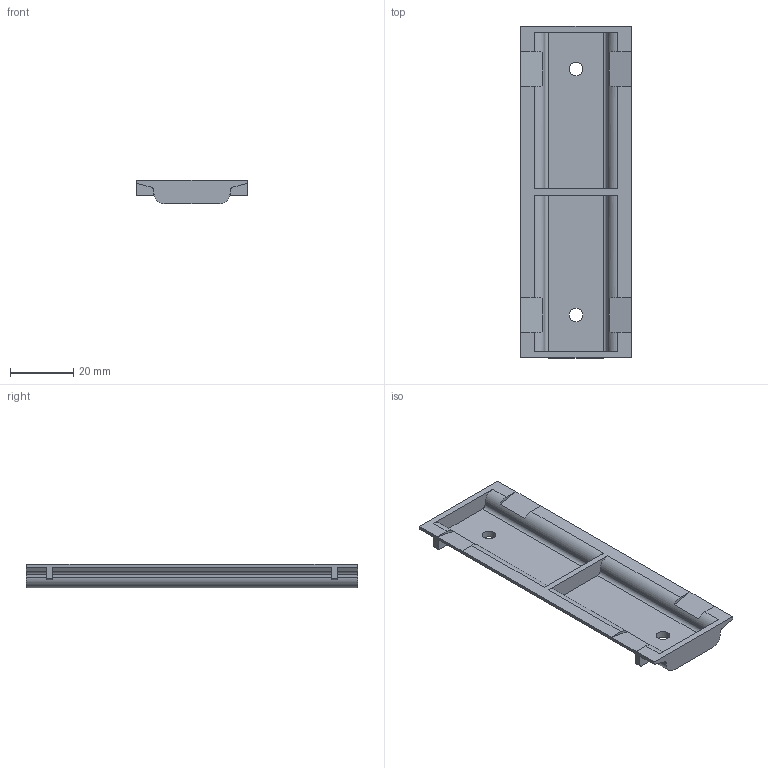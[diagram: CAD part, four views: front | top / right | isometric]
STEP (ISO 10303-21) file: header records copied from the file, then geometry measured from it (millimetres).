
FILE_DESCRIPTION( ( 'Unknown' ), '1' );
FILE_NAME( 'J:/DESBAKUP/3D DATA/MK-090PSL/ASSEMBLIES/3D OUTPUT & IMAGES/MK-090PSL.stp', 'Unknown', ( 'Unknown' ), ( 'Unknown' ), 'PSStep 14.0', 'Unknown', ' ' );
FILE_SCHEMA( ( 'AUTOMOTIVE_DESIGN { 1 0 10303 214 1 1 1 1 }' ) );
Length unit declared in the file: millimetre
Products named in the file (1): 1
Bounding box: 35 x 104.7 x 7.5 mm (x, y, z)
Volume: 9592.7 mm3; surface area: 9918.9 mm2
Topology: 1 solids, 1 shells, 76 faces, 214 edges, 140 vertices
Faces by surface type: plane 54, cylinder 22
Full cylindrical faces by diameter (mm): 4.3 x2
Entity records: 3076 total; most frequent: CARTESIAN_POINT 429, DIRECTION 426, ORIENTED_EDGE 424, EDGE_CURVE 212, LINE 152, VECTOR 152, VERTEX_POINT 140, AXIS2_PLACEMENT_3D 137
